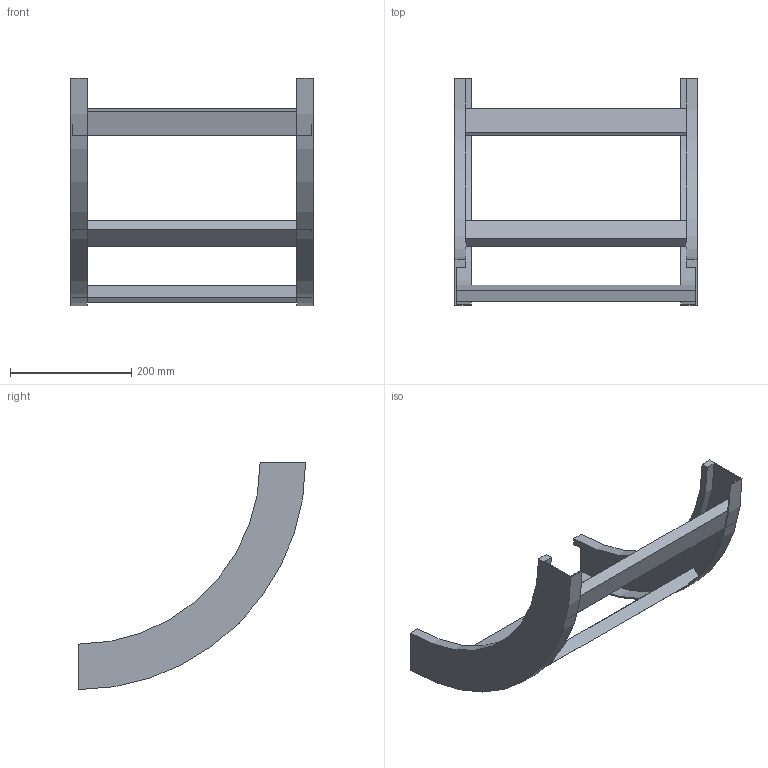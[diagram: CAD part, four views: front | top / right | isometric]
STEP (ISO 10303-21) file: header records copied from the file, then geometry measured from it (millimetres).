
FILE_DESCRIPTION (( 'STEP AP214' ), '1' );
FILE_NAME ('B2X30B3C400XX.step', '2025-03-20T10:25:19', ( '' ), ( '' ), 'SwSTEP 2.0', 'SolidWorks 2023', '' );
FILE_SCHEMA (( 'AUTOMOTIVE_DESIGN' ));
Length unit declared in the file: millimetre
Products named in the file (3): B2_LONGH.SALITA_90°_H75_R300; B2X30B3C400XX; TRAVERSINO_400
Assembly tree (5 placements, depth 2):
  B2X30B3C400XX
    B2_LONGH.SALITA_90°_H75_R300  x2
    TRAVERSINO_400  x3
Bounding box: 400 x 375 x 375 mm (x, y, z)
Volume: 1364645.8 mm3; surface area: 402970.5 mm2
Topology: 5 solids, 5 shells, 38 faces, 84 edges, 56 vertices
Faces by surface type: plane 30, cylinder 8
Entity records: 560 total; most frequent: DIRECTION 92, CARTESIAN_POINT 84, ORIENTED_EDGE 72, EDGE_CURVE 36, AXIS2_PLACEMENT_3D 32, LINE 28, VECTOR 28, VERTEX_POINT 24
